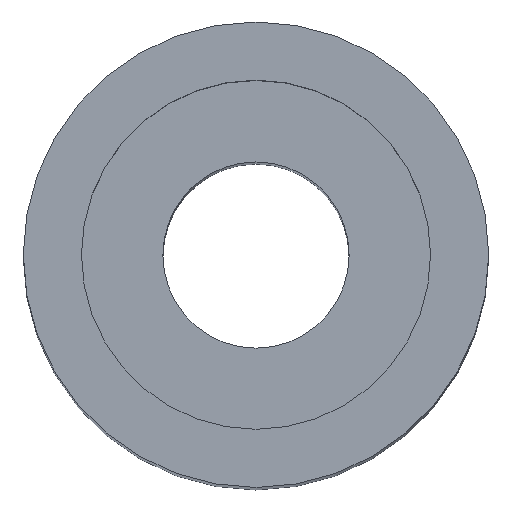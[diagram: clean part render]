
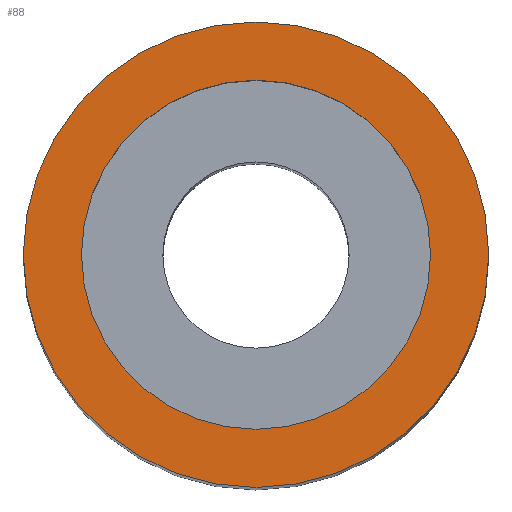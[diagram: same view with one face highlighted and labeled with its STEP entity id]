
A CAD part, top view. The second image highlights one B-rep face of the part: STEP entity #88.
In plain terms, the highlighted planar face has unit normal (0, 0, 1).
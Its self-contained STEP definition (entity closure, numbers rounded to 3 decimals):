
#16=FACE_BOUND('',#33,.T.);
#19=PLANE('',#114);
#25=FACE_OUTER_BOUND('',#32,.T.);
#32=EDGE_LOOP('',(#77));
#33=EDGE_LOOP('',(#78));
#44=CIRCLE('',#108,3.);
#46=CIRCLE('',#112,4.);
#50=VERTEX_POINT('',#153);
#52=VERTEX_POINT('',#160);
#57=EDGE_CURVE('',#50,#50,#44,.T.);
#60=EDGE_CURVE('',#52,#52,#46,.T.);
#77=ORIENTED_EDGE('',*,*,#60,.T.);
#78=ORIENTED_EDGE('',*,*,#57,.T.);
#88=ADVANCED_FACE('',(#25,#16),#19,.T.);
#108=AXIS2_PLACEMENT_3D('',#154,#127,#128);
#112=AXIS2_PLACEMENT_3D('',#161,#136,#137);
#114=AXIS2_PLACEMENT_3D('',#165,#141,#142);
#127=DIRECTION('center_axis',(0.,0.,
-1.));
#128=DIRECTION('ref_axis',(1.,0.,0.));
#136=DIRECTION('center_axis',(0.,0.,
1.));
#137=DIRECTION('ref_axis',(1.,0.,0.));
#141=DIRECTION('center_axis',(0.,0.,
1.));
#142=DIRECTION('ref_axis',(1.,0.,0.));
#153=CARTESIAN_POINT('',(-3.,15.,35.));
#154=CARTESIAN_POINT('Origin',(0.,15.,35.));
#160=CARTESIAN_POINT('',(-4.,15.,35.));
#161=CARTESIAN_POINT('Origin',(0.,15.,35.));
#165=CARTESIAN_POINT('Origin',(0.,15.,35.));
